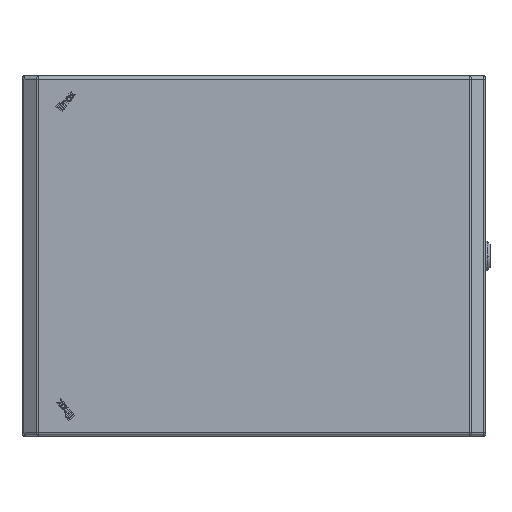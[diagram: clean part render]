
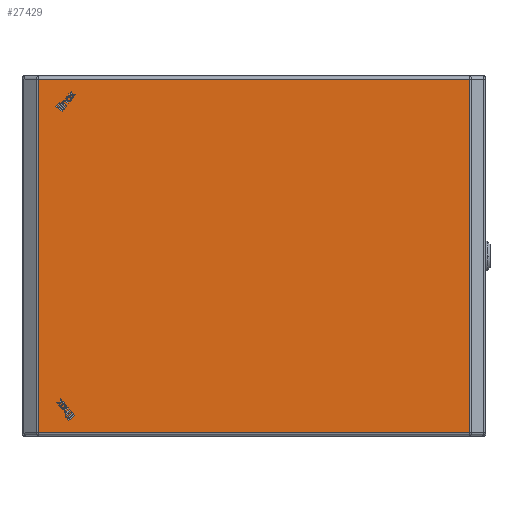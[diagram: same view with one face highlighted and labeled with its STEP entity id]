
A CAD part, top view. The second image highlights one B-rep face of the part: STEP entity #27429.
In plain terms, the highlighted planar face has unit normal (0, 0, 1).
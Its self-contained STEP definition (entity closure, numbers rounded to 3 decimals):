
#256 = ORIENTED_EDGE ( 'NONE', *, *, #26459, .T. ) ;
#549 = DIRECTION ( 'NONE',  ( 0., 0., 1. ) ) ;
#1028 = EDGE_CURVE ( 'NONE', #29766, #15681, #15222, .T. ) ;
#2590 = EDGE_LOOP ( 'NONE', ( #256, #20506, #21585, #25456 ) ) ;
#3654 = LINE ( 'NONE', #13003, #19272 ) ;
#4030 = DIRECTION ( 'NONE',  ( 0., 1., 0. ) ) ;
#6053 = VECTOR ( 'NONE', #7410, 1000. ) ;
#7410 = DIRECTION ( 'NONE',  ( 0., -1., 0. ) ) ;
#8479 = AXIS2_PLACEMENT_3D ( 'NONE', #19611, #549, #9608 ) ;
#9108 = CARTESIAN_POINT ( 'NONE',  ( 209.294, 171.35, 26.5 ) ) ;
#9608 = DIRECTION ( 'NONE',  ( 1., 0., 0. ) ) ;
#10304 = CARTESIAN_POINT ( 'NONE',  ( 210.25, -171.35, 26.5 ) ) ;
#10697 = CARTESIAN_POINT ( 'NONE',  ( 209.294, -171.35, 26.5 ) ) ;
#11223 = CARTESIAN_POINT ( 'NONE',  ( 209.294, -174.35, 26.5 ) ) ;
#13003 = CARTESIAN_POINT ( 'NONE',  ( -210.25, 171.35, 26.5 ) ) ;
#14485 = CARTESIAN_POINT ( 'NONE',  ( -209.294, -174.35, 26.5 ) ) ;
#15222 = LINE ( 'NONE', #10304, #27617 ) ;
#15681 = VERTEX_POINT ( 'NONE', #10697 ) ;
#19272 = VECTOR ( 'NONE', #22399, 1000. ) ;
#19611 = CARTESIAN_POINT ( 'NONE',  ( 224.35, -174.35, 26.5 ) ) ;
#20438 = VERTEX_POINT ( 'NONE', #9108 ) ;
#20506 = ORIENTED_EDGE ( 'NONE', *, *, #1028, .T. ) ;
#21585 = ORIENTED_EDGE ( 'NONE', *, *, #26679, .T. ) ;
#22009 = DIRECTION ( 'NONE',  ( 1., 0., 0. ) ) ;
#22399 = DIRECTION ( 'NONE',  ( -1., 0., 0. ) ) ;
#23764 = FACE_OUTER_BOUND ( 'NONE', #2590, .T. ) ;
#24985 = CARTESIAN_POINT ( 'NONE',  ( -209.294, 171.35, 26.5 ) ) ;
#25406 = LINE ( 'NONE', #11223, #30070 ) ;
#25456 = ORIENTED_EDGE ( 'NONE', *, *, #25806, .T. ) ;
#25806 = EDGE_CURVE ( 'NONE', #20438, #26260, #3654, .T. ) ;
#26094 = PLANE ( 'NONE',  #8479 ) ;
#26260 = VERTEX_POINT ( 'NONE', #24985 ) ;
#26459 = EDGE_CURVE ( 'NONE', #26260, #29766, #28503, .T. ) ;
#26679 = EDGE_CURVE ( 'NONE', #15681, #20438, #25406, .T. ) ;
#27429 = ADVANCED_FACE ( 'NONE', ( #23764 ), #26094, .T. ) ;
#27617 = VECTOR ( 'NONE', #22009, 1000. ) ;
#28503 = LINE ( 'NONE', #14485, #6053 ) ;
#29766 = VERTEX_POINT ( 'NONE', #30285 ) ;
#30070 = VECTOR ( 'NONE', #4030, 1000. ) ;
#30285 = CARTESIAN_POINT ( 'NONE',  ( -209.294, -171.35, 26.5 ) ) ;
